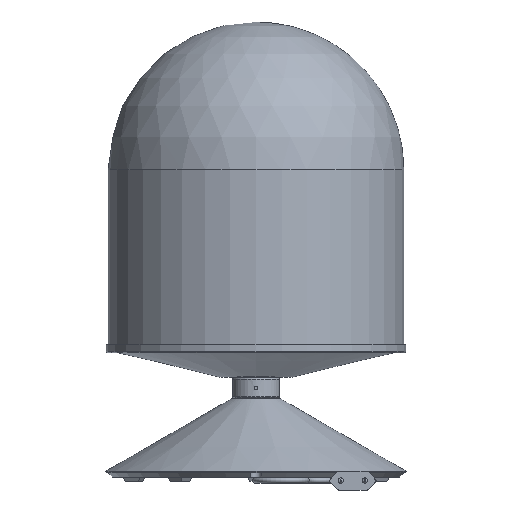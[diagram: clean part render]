
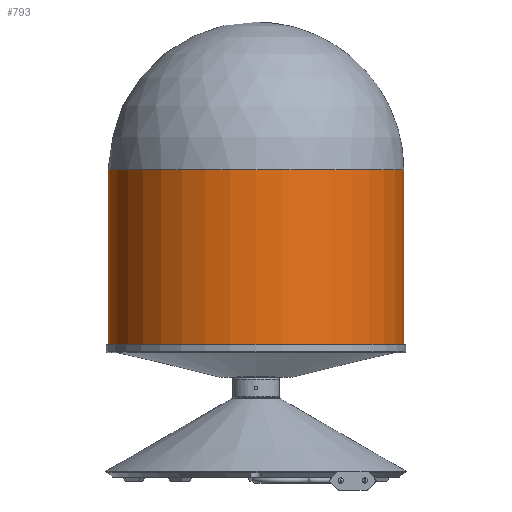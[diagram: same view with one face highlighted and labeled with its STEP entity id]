
A CAD part, front view. The second image highlights one B-rep face of the part: STEP entity #793.
In plain terms, the highlighted cylindrical face has radius 110 mm (diameter 220 mm), a full revolution.
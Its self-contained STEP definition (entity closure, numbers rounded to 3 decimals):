
#793 = ADVANCED_FACE( '', ( #1666, #1667 ), #1668, .T. );
#1666 = FACE_OUTER_BOUND( '', #4348, .T. );
#1667 = FACE_OUTER_BOUND( '', #4349, .T. );
#1668 = CYLINDRICAL_SURFACE( '', #4350, 110. );
#4348 = EDGE_LOOP( '', ( #6478 ) );
#4349 = EDGE_LOOP( '', ( #6479 ) );
#4350 = AXIS2_PLACEMENT_3D( '', #6480, #6481, #6482 );
#6478 = ORIENTED_EDGE( '', *, *, #7160, .T. );
#6479 = ORIENTED_EDGE( '', *, *, #7294, .F. );
#6480 = CARTESIAN_POINT( '', ( 0., 0., 65.5 ) );
#6481 = DIRECTION( '', ( 0., 0., -1. ) );
#6482 = DIRECTION( '', ( 0., 1., 0. ) );
#7160 = EDGE_CURVE( '', #8303, #8303, #8304, .T. );
#7294 = EDGE_CURVE( '', #8472, #8472, #8473, .T. );
#8303 = VERTEX_POINT( '', #10077 );
#8304 = CIRCLE( '', #10078, 110. );
#8472 = VERTEX_POINT( '', #10353 );
#8473 = CIRCLE( '', #10354, 110. );
#10077 = CARTESIAN_POINT( '', ( 0., -110., 90. ) );
#10078 = AXIS2_PLACEMENT_3D( '', #11423, #11424, #11425 );
#10353 = CARTESIAN_POINT( '', ( 0., 110., 225. ) );
#10354 = AXIS2_PLACEMENT_3D( '', #11562, #11563, #11564 );
#11423 = CARTESIAN_POINT( '', ( 0., 0., 90. ) );
#11424 = DIRECTION( '', ( 0., 0., 1. ) );
#11425 = DIRECTION( '', ( 0., -1., 0. ) );
#11562 = CARTESIAN_POINT( '', ( 0., 0., 225. ) );
#11563 = DIRECTION( '', ( 0., 0., 1. ) );
#11564 = DIRECTION( '', ( 0., 1., 0. ) );
